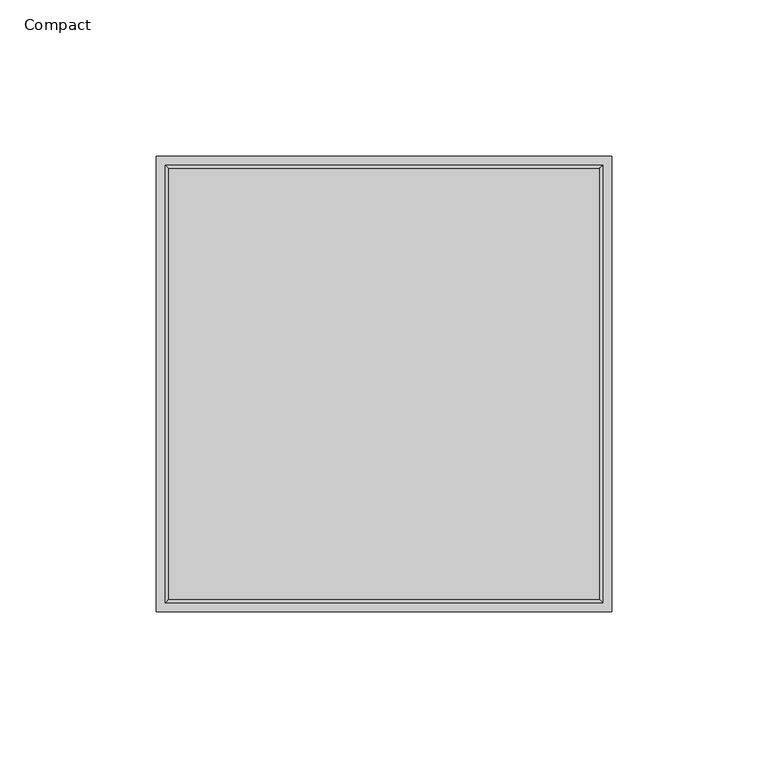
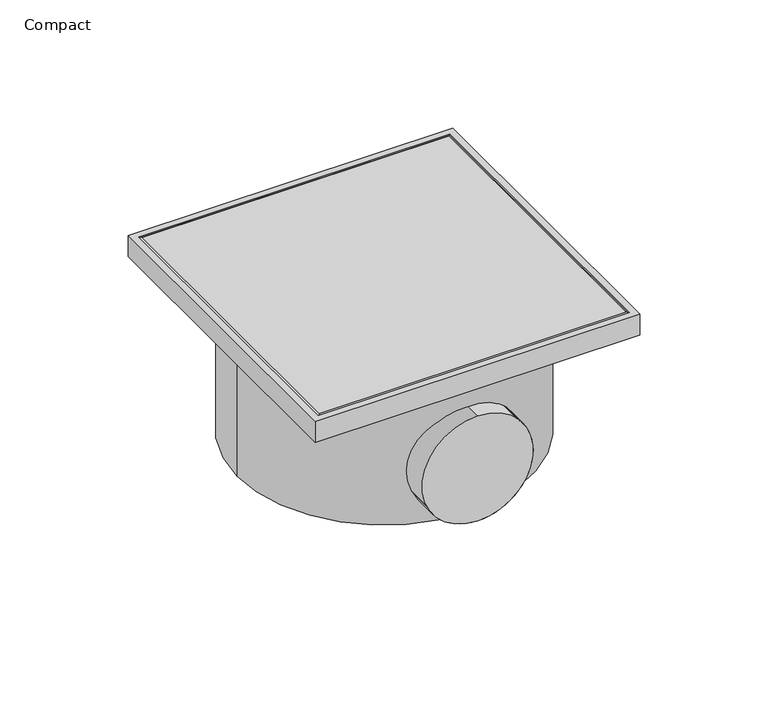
"""IFC4 building model written with IfcOpenShell, lengths in millimetres: sanitary terminal geometry, NLRS_PF_52_UN_Aqua Compact_Easydrain : Compact."""

from ifc_helpers import new_model, si_unit, point, frame, frame_2d, origin, origin_2d, place, context, project, spatial, polyline, circle_curve, ellipse_curve, trimmed, segment, composite_curve, outline, extrude, source, transform, mapped, element, save
from ifc_brep_helpers import plane_surface, cylinder_surface, advanced_brep


def compact_b74792c9(model_context):
    return source(origin(), model_context, "Body", "SolidModel", [
        extrude(outline(composite_curve([segment(trimmed(circle_curve(frame_2d((-48.0, 0.0)), 25.0), [point((-23.0, 0.0))], [point((-73.0, 0.0))], False, "CARTESIAN"), True, "CONTINUOUS"), segment(trimmed(circle_curve(frame_2d((-48.0, 0.0)), 25.0), [point((-73.0, 0.0))], [point((-23.0, 0.0))], False, "CARTESIAN"), True, "CONTINUOUS")], self_intersect=False)), frame((0.0, -73.0, 0.0), z_axis=(0.0, 1.0, 0.0), x_axis=(0.0, 0.0, 1.0)), (0.0, 0.0, 1.0), 73.0),
        extrude(outline(composite_curve([segment(trimmed(circle_curve(frame_2d((-48.0, 0.0)), 25.0), [point((-48.0, -25.0))], [point((-48.0, 25.0))], False, "CARTESIAN"), True, "CONTINUOUS"), segment(trimmed(circle_curve(frame_2d((-48.0, 0.0)), 25.0), [point((-48.0, 25.0))], [point((-48.0, -25.0))], False, "CARTESIAN"), True, "CONTINUOUS")], self_intersect=False)), frame((0.0, -73.0, 0.0), z_axis=(0.0, 1.0, 0.0), x_axis=(0.0, 0.0, 1.0)), (0.0, 0.0, 1.0), 73.0),
        extrude(outline(polyline([(73.0, 73.0), (73.0, -73.0), (-73.0, -73.0), (-73.0, 73.0), (73.0, 73.0)]), holes=[polyline([(70.0, 70.0), (-70.0, 70.0), (-70.0, -70.0), (70.0, -70.0), (70.0, 70.0)])]), frame((0.0, 0.0, -10.0), z_axis=(0.0, 0.0, 1.0), x_axis=(1.0, 0.0, 0.0)), (0.0, 0.0, 1.0), 10.0),
        advanced_brep(
        [(70.0, 70.0, -10.0), (70.0, -70.0, -10.0), (-70.0, -70.0, -10.0), (-70.0, 70.0, -10.0), (-69.0, 69.0, 0.0), (-69.0, -69.0, 0.0), (69.0, -69.0, 0.0), (69.0, 69.0, 0.0), (-70.0, 70.0, -1.0), (70.0, 70.0, -1.0), (-70.0, -70.0, -1.0), (70.0, -70.0, -1.0)],
        [
            (0, 1),
            (1, 2),
            (2, 3),
            (3, 0),
            (4, 5),
            (5, 6),
            (6, 7),
            (7, 4),
            (3, 8),
            (8, 9),
            (9, 0),
            (2, 10),
            (10, 8),
            (1, 11),
            (11, 10),
            (9, 11),
            (10, 5, ellipse_curve(frame((-69.0, -69.0, -1.0), z_axis=(-0.7071067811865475, 0.7071067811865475, 0.0), x_axis=(-0.7071067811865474, -0.7071067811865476, 0.0)), 1.4142136, 1.0)),
            (4, 8, ellipse_curve(frame((-69.0, 69.0, -1.0), z_axis=(-0.7071067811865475, -0.7071067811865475, 0.0), x_axis=(0.7071067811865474, -0.7071067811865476, 0.0)), 1.4142136, 1.0)),
            (11, 6, ellipse_curve(frame((69.0, -69.0, -1.0), z_axis=(-0.7071067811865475, -0.7071067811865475, 0.0), x_axis=(0.7071067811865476, -0.7071067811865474, 0.0)), 1.4142136, 1.0)),
            (9, 7, ellipse_curve(frame((69.0, 69.0, -1.0), z_axis=(0.7071067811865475, -0.7071067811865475, 0.0), x_axis=(0.7071067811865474, 0.7071067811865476, 0.0)), 1.4142136, 1.0)),
        ],
        [
            plane_surface(frame((-70.0, 70.0, -10.0), z_axis=(0.0, 0.0, -1.0), x_axis=(1.0, 0.0, 0.0))),
            plane_surface(frame((-70.0, 70.0, 0.0), z_axis=(0.0, 0.0, 1.0), x_axis=(-1.0, 0.0, 0.0))),
            plane_surface(frame((70.0, 70.0, 0.0), z_axis=(0.0, 1.0, 0.0), x_axis=(0.0, 0.0, -1.0))),
            plane_surface(frame((-70.0, 70.0, 0.0), z_axis=(-1.0, 0.0, 0.0), x_axis=(0.0, 0.0, -1.0))),
            plane_surface(frame((-70.0, -70.0, 0.0), z_axis=(0.0, -1.0, 0.0), x_axis=(0.0, 0.0, -1.0))),
            plane_surface(frame((70.0, -70.0, 0.0), z_axis=(1.0, 0.0, 0.0), x_axis=(0.0, 0.0, -1.0))),
            cylinder_surface(frame((-69.0, 70.0, -1.0), z_axis=(0.0, -1.0, 0.0), x_axis=(1.0, 0.0, 0.0)), 1.0),
            cylinder_surface(frame((-70.0, -69.0, -1.0), z_axis=(1.0, 0.0, 0.0), x_axis=(0.0, 1.0, 0.0)), 1.0),
            cylinder_surface(frame((69.0, -70.0, -1.0), z_axis=(0.0, 1.0, 0.0), x_axis=(-1.0, 0.0, 0.0)), 1.0),
            cylinder_surface(frame((70.0, 69.0, -1.0), z_axis=(-1.0, 0.0, 0.0), x_axis=(0.0, -1.0, 0.0)), 1.0),
        ],
        [
            (0, [[1, 2, 3, 4]]),
            (1, [[5, 6, 7, 8]]),
            (2, [[-4, 9, 10, 11]]),
            (3, [[-3, 12, 13, -9]]),
            (4, [[-2, 14, 15, -12]]),
            (5, [[-1, -11, 16, -14]]),
            (6, [[17, -5, 18, -13]]),
            (7, [[-17, -15, 19, -6]]),
            (8, [[-19, -16, 20, -7]]),
            (9, [[-18, -8, -20, -10]]),
        ],
    ),
        extrude(outline(composite_curve([segment(trimmed(circle_curve(origin_2d(), 66.0), [point((-66.0, 0.0))], [point((66.0, 0.0))], False, "CARTESIAN"), True, "CONTINUOUS"), segment(trimmed(circle_curve(origin_2d(), 66.0), [point((66.0, 0.0))], [point((-66.0, 0.0))], False, "CARTESIAN"), True, "CONTINUOUS")], self_intersect=False)), frame((0.0, 0.0, -73.0), z_axis=(0.0, 0.0, 1.0), x_axis=(1.0, 0.0, 0.0)), (0.0, 0.0, 1.0), 63.0),
    ])


if __name__ == "__main__":
    model = new_model("IFC4")
    model_context = context("Model", 3, world=origin())
    ifc_project = project(units=[si_unit("LENGTHUNIT", "METRE", prefix="MILLI")], contexts=[model_context])
    site = spatial("IfcSite", under=ifc_project)
    building = spatial("IfcBuilding", under=site)
    placement = place(None, origin())
    compact_shape = compact_b74792c9(model_context)
    element("IfcSanitaryTerminal", 1, ObjectType="NLRS_PF_52_UN_Aqua Compact_Easydrain : Compact", at=placement, inside=building, context=model_context, shape_type="MappedRepresentation", body=[
        mapped(compact_shape, transform((0.0, 0.0, 0.0), x_axis=(1.0, 0.0, 0.0), y_axis=(0.0, 1.0, 0.0), z_axis=(0.0, 0.0, 1.0))),
    ])
    save(model, "model.ifc")
